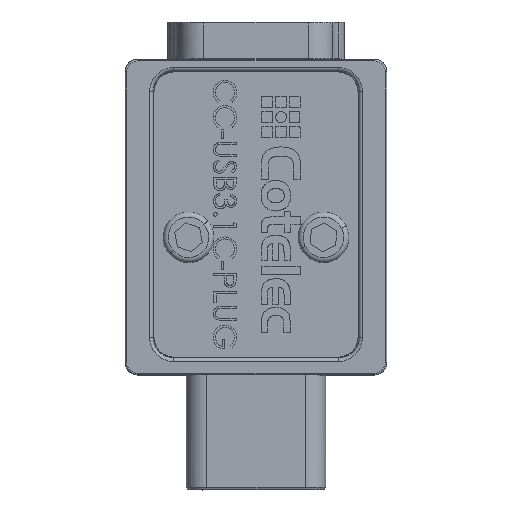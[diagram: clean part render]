
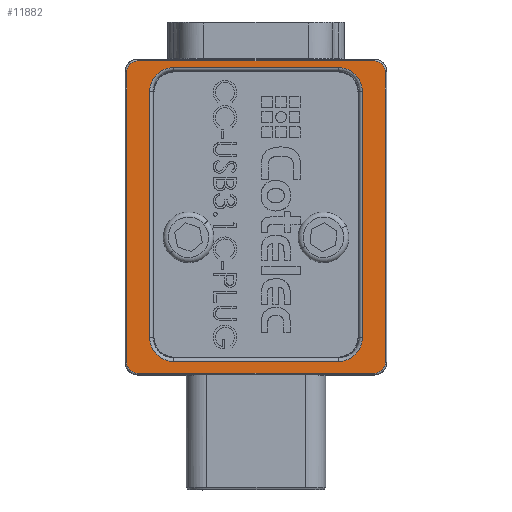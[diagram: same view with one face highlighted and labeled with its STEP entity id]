
A CAD part, front view. The second image highlights one B-rep face of the part: STEP entity #11882.
In plain terms, the highlighted planar face has unit normal (0, -1, 0).
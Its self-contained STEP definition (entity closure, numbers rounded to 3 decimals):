
#2593 = VECTOR ( 'NONE', #17519, 1000. ) ;
#3413 = VECTOR ( 'NONE', #80296, 1000. ) ;
#4303 = VERTEX_POINT ( 'NONE', #109214 ) ;
#5405 = CARTESIAN_POINT ( 'NONE',  ( -4.9, 0., -0.497 ) ) ;
#9982 = CARTESIAN_POINT ( 'NONE',  ( -6.303, 0., 0. ) ) ;
#11084 = CARTESIAN_POINT ( 'NONE',  ( 4.9, 0., -1.9 ) ) ;
#11624 = AXIS2_PLACEMENT_3D ( 'NONE', #56985, #15610, #158814 ) ;
#11882 = ADVANCED_FACE ( 'NONE', ( #96672, #27361 ), #62462, .F. ) ;
#12334 = DIRECTION ( 'NONE',  ( 0., 0., 1. ) ) ;
#15254 = CARTESIAN_POINT ( 'NONE',  ( 7., 0., -17.95 ) ) ;
#15610 = DIRECTION ( 'NONE',  ( 0., -1., 0. ) ) ;
#15746 = ORIENTED_EDGE ( 'NONE', *, *, #185598, .T. ) ;
#17519 = DIRECTION ( 'NONE',  ( -1., 0., 0. ) ) ;
#17840 = ORIENTED_EDGE ( 'NONE', *, *, #135310, .T. ) ;
#19569 = VERTEX_POINT ( 'NONE', #61474 ) ;
#20472 = DIRECTION ( 'NONE',  ( 0., 0., 1. ) ) ;
#21435 = EDGE_CURVE ( 'NONE', #155217, #156811, #38854, .T. ) ;
#24346 = ORIENTED_EDGE ( 'NONE', *, *, #43443, .T. ) ;
#26634 = DIRECTION ( 'NONE',  ( 0., 0., 1. ) ) ;
#27361 = FACE_BOUND ( 'NONE', #73361, .T. ) ;
#29071 = LINE ( 'NONE', #109477, #143173 ) ;
#29622 = ORIENTED_EDGE ( 'NONE', *, *, #185336, .T. ) ;
#30689 = CARTESIAN_POINT ( 'NONE',  ( -6.303, 0., -16.5 ) ) ;
#36970 = DIRECTION ( 'NONE',  ( 0., 1., 0. ) ) ;
#38854 = CIRCLE ( 'NONE', #137222, 0.66 ) ;
#40008 = VERTEX_POINT ( 'NONE', #117145 ) ;
#40796 = LINE ( 'NONE', #142044, #2593 ) ;
#41091 = DIRECTION ( 'NONE',  ( 0., 0., -1. ) ) ;
#41268 = CARTESIAN_POINT ( 'NONE',  ( 6.303, 0., -16.5 ) ) ;
#43443 = EDGE_CURVE ( 'NONE', #40008, #128562, #157800, .T. ) ;
#44479 = LINE ( 'NONE', #82110, #104909 ) ;
#46058 = VERTEX_POINT ( 'NONE', #153393 ) ;
#46637 = EDGE_CURVE ( 'NONE', #19569, #121643, #59220, .T. ) ;
#46841 = DIRECTION ( 'NONE',  ( 0., 1., 0. ) ) ;
#47047 = ORIENTED_EDGE ( 'NONE', *, *, #122488, .T. ) ;
#48380 = EDGE_CURVE ( 'NONE', #109255, #19569, #40796, .T. ) ;
#52495 = EDGE_CURVE ( 'NONE', #141654, #112408, #153524, .T. ) ;
#53008 = ORIENTED_EDGE ( 'NONE', *, *, #21435, .T. ) ;
#56985 = CARTESIAN_POINT ( 'NONE',  ( -7., 0., -17.95 ) ) ;
#57976 = LINE ( 'NONE', #182854, #163082 ) ;
#58035 = DIRECTION ( 'NONE',  ( 0., 0., 1. ) ) ;
#58156 = LINE ( 'NONE', #9982, #176605 ) ;
#59220 = CIRCLE ( 'NONE', #123497, 1.403 ) ;
#59242 = CARTESIAN_POINT ( 'NONE',  ( 6.303, 0., -1.9 ) ) ;
#59515 = VERTEX_POINT ( 'NONE', #86276 ) ;
#61474 = CARTESIAN_POINT ( 'NONE',  ( -4.9, 0., -17.903 ) ) ;
#61869 = DIRECTION ( 'NONE',  ( 0., 0., -1. ) ) ;
#62462 = PLANE ( 'NONE',  #80436 ) ;
#63800 = CIRCLE ( 'NONE', #65039, 0.66 ) ;
#64146 = CIRCLE ( 'NONE', #183244, 1.403 ) ;
#65039 = AXIS2_PLACEMENT_3D ( 'NONE', #77152, #105296, #132781 ) ;
#65116 = CARTESIAN_POINT ( 'NONE',  ( 4.9, 0., -0.497 ) ) ;
#65338 = CIRCLE ( 'NONE', #11624, 0.66 ) ;
#66872 = AXIS2_PLACEMENT_3D ( 'NONE', #144166, #174078, #131008 ) ;
#67751 = VERTEX_POINT ( 'NONE', #150339 ) ;
#73361 = EDGE_LOOP ( 'NONE', ( #75191, #122662, #17840, #24346, #165604, #103304, #165710, #182472 ) ) ;
#75191 = ORIENTED_EDGE ( 'NONE', *, *, #48380, .T. ) ;
#75823 = CARTESIAN_POINT ( 'NONE',  ( 7., 0., -0.09 ) ) ;
#77152 = CARTESIAN_POINT ( 'NONE',  ( -7., 0., -0.75 ) ) ;
#77307 = CARTESIAN_POINT ( 'NONE',  ( 4.9, 0., -17.903 ) ) ;
#79419 = ORIENTED_EDGE ( 'NONE', *, *, #100540, .T. ) ;
#80296 = DIRECTION ( 'NONE',  ( 1., 0., 0. ) ) ;
#80436 = AXIS2_PLACEMENT_3D ( 'NONE', #176706, #46841, #20472 ) ;
#81163 = ORIENTED_EDGE ( 'NONE', *, *, #135275, .T. ) ;
#81316 = DIRECTION ( 'NONE',  ( 1., 0., 0. ) ) ;
#82110 = CARTESIAN_POINT ( 'NONE',  ( 7.66, 0., 0. ) ) ;
#83435 = DIRECTION ( 'NONE',  ( 0., 1., 0. ) ) ;
#84046 = CARTESIAN_POINT ( 'NONE',  ( 4.9, 0., -16.5 ) ) ;
#85332 = CIRCLE ( 'NONE', #108453, 1.403 ) ;
#86276 = CARTESIAN_POINT ( 'NONE',  ( -7.66, 0., -17.95 ) ) ;
#86357 = VECTOR ( 'NONE', #61869, 1000. ) ;
#90690 = LINE ( 'NONE', #95916, #3413 ) ;
#91222 = CARTESIAN_POINT ( 'NONE',  ( 6.303, 0., 0. ) ) ;
#95916 = CARTESIAN_POINT ( 'NONE',  ( 0., 0., -0.497 ) ) ;
#96174 = LINE ( 'NONE', #173655, #116225 ) ;
#96672 = FACE_OUTER_BOUND ( 'NONE', #111275, .T. ) ;
#99988 = EDGE_CURVE ( 'NONE', #164694, #155217, #44479, .T. ) ;
#100540 = EDGE_CURVE ( 'NONE', #156811, #46058, #96174, .T. ) ;
#103304 = ORIENTED_EDGE ( 'NONE', *, *, #179241, .T. ) ;
#104909 = VECTOR ( 'NONE', #158323, 1000. ) ;
#105296 = DIRECTION ( 'NONE',  ( 0., -1., 0. ) ) ;
#106470 = CIRCLE ( 'NONE', #127138, 0.66 ) ;
#107957 = EDGE_CURVE ( 'NONE', #67751, #59515, #57976, .T. ) ;
#108265 = DIRECTION ( 'NONE',  ( 0., 0., 1. ) ) ;
#108453 = AXIS2_PLACEMENT_3D ( 'NONE', #11084, #168013, #12334 ) ;
#109214 = CARTESIAN_POINT ( 'NONE',  ( 7., 0., -18.61 ) ) ;
#109255 = VERTEX_POINT ( 'NONE', #77307 ) ;
#109477 = CARTESIAN_POINT ( 'NONE',  ( 0., 0., -18.61 ) ) ;
#111275 = EDGE_LOOP ( 'NONE', ( #81163, #29622, #152518, #53008, #79419, #15746, #112200, #47047 ) ) ;
#112200 = ORIENTED_EDGE ( 'NONE', *, *, #107957, .T. ) ;
#112408 = VERTEX_POINT ( 'NONE', #41268 ) ;
#113708 = DIRECTION ( 'NONE',  ( 0., -1., 0. ) ) ;
#113983 = CARTESIAN_POINT ( 'NONE',  ( 7.66, 0., -0.75 ) ) ;
#116225 = VECTOR ( 'NONE', #116838, 1000. ) ;
#116838 = DIRECTION ( 'NONE',  ( -1., 0., 0. ) ) ;
#117145 = CARTESIAN_POINT ( 'NONE',  ( -6.303, 0., -1.9 ) ) ;
#117983 = CARTESIAN_POINT ( 'NONE',  ( 7.66, 0., -17.95 ) ) ;
#121643 = VERTEX_POINT ( 'NONE', #30689 ) ;
#122488 = EDGE_CURVE ( 'NONE', #59515, #145646, #65338, .T. ) ;
#122662 = ORIENTED_EDGE ( 'NONE', *, *, #46637, .T. ) ;
#123497 = AXIS2_PLACEMENT_3D ( 'NONE', #178124, #36970, #134442 ) ;
#126716 = EDGE_CURVE ( 'NONE', #112408, #109255, #64146, .T. ) ;
#127138 = AXIS2_PLACEMENT_3D ( 'NONE', #15254, #155419, #26634 ) ;
#128562 = VERTEX_POINT ( 'NONE', #5405 ) ;
#131008 = DIRECTION ( 'NONE',  ( 0., 0., 1. ) ) ;
#132045 = VERTEX_POINT ( 'NONE', #65116 ) ;
#132781 = DIRECTION ( 'NONE',  ( 0., 0., 1. ) ) ;
#134442 = DIRECTION ( 'NONE',  ( 0., 0., 1. ) ) ;
#135275 = EDGE_CURVE ( 'NONE', #145646, #4303, #29071, .T. ) ;
#135310 = EDGE_CURVE ( 'NONE', #121643, #40008, #58156, .T. ) ;
#137222 = AXIS2_PLACEMENT_3D ( 'NONE', #169928, #113708, #58035 ) ;
#137949 = CARTESIAN_POINT ( 'NONE',  ( -7., 0., -18.61 ) ) ;
#141654 = VERTEX_POINT ( 'NONE', #59242 ) ;
#142044 = CARTESIAN_POINT ( 'NONE',  ( 0., 0., -17.903 ) ) ;
#142165 = DIRECTION ( 'NONE',  ( 0., 0., 1. ) ) ;
#143173 = VECTOR ( 'NONE', #81316, 1000. ) ;
#144166 = CARTESIAN_POINT ( 'NONE',  ( -4.9, 0., -1.9 ) ) ;
#145646 = VERTEX_POINT ( 'NONE', #137949 ) ;
#150339 = CARTESIAN_POINT ( 'NONE',  ( -7.66, 0., -0.75 ) ) ;
#152518 = ORIENTED_EDGE ( 'NONE', *, *, #99988, .T. ) ;
#153393 = CARTESIAN_POINT ( 'NONE',  ( -7., 0., -0.09 ) ) ;
#153524 = LINE ( 'NONE', #91222, #86357 ) ;
#155217 = VERTEX_POINT ( 'NONE', #113983 ) ;
#155419 = DIRECTION ( 'NONE',  ( 0., -1., 0. ) ) ;
#156811 = VERTEX_POINT ( 'NONE', #75823 ) ;
#157800 = CIRCLE ( 'NONE', #66872, 1.403 ) ;
#158323 = DIRECTION ( 'NONE',  ( 0., 0., 1. ) ) ;
#158814 = DIRECTION ( 'NONE',  ( 0., 0., 1. ) ) ;
#160692 = EDGE_CURVE ( 'NONE', #128562, #132045, #90690, .T. ) ;
#163082 = VECTOR ( 'NONE', #41091, 1000. ) ;
#164694 = VERTEX_POINT ( 'NONE', #117983 ) ;
#165604 = ORIENTED_EDGE ( 'NONE', *, *, #160692, .T. ) ;
#165710 = ORIENTED_EDGE ( 'NONE', *, *, #52495, .T. ) ;
#168013 = DIRECTION ( 'NONE',  ( 0., 1., 0. ) ) ;
#169928 = CARTESIAN_POINT ( 'NONE',  ( 7., 0., -0.75 ) ) ;
#173655 = CARTESIAN_POINT ( 'NONE',  ( 0., 0., -0.09 ) ) ;
#174078 = DIRECTION ( 'NONE',  ( 0., 1., 0. ) ) ;
#176605 = VECTOR ( 'NONE', #108265, 1000. ) ;
#176706 = CARTESIAN_POINT ( 'NONE',  ( 0., 0., 0. ) ) ;
#178124 = CARTESIAN_POINT ( 'NONE',  ( -4.9, 0., -16.5 ) ) ;
#179241 = EDGE_CURVE ( 'NONE', #132045, #141654, #85332, .T. ) ;
#182472 = ORIENTED_EDGE ( 'NONE', *, *, #126716, .T. ) ;
#182854 = CARTESIAN_POINT ( 'NONE',  ( -7.66, 0., 0. ) ) ;
#183244 = AXIS2_PLACEMENT_3D ( 'NONE', #84046, #83435, #142165 ) ;
#185336 = EDGE_CURVE ( 'NONE', #4303, #164694, #106470, .T. ) ;
#185598 = EDGE_CURVE ( 'NONE', #46058, #67751, #63800, .T. ) ;
